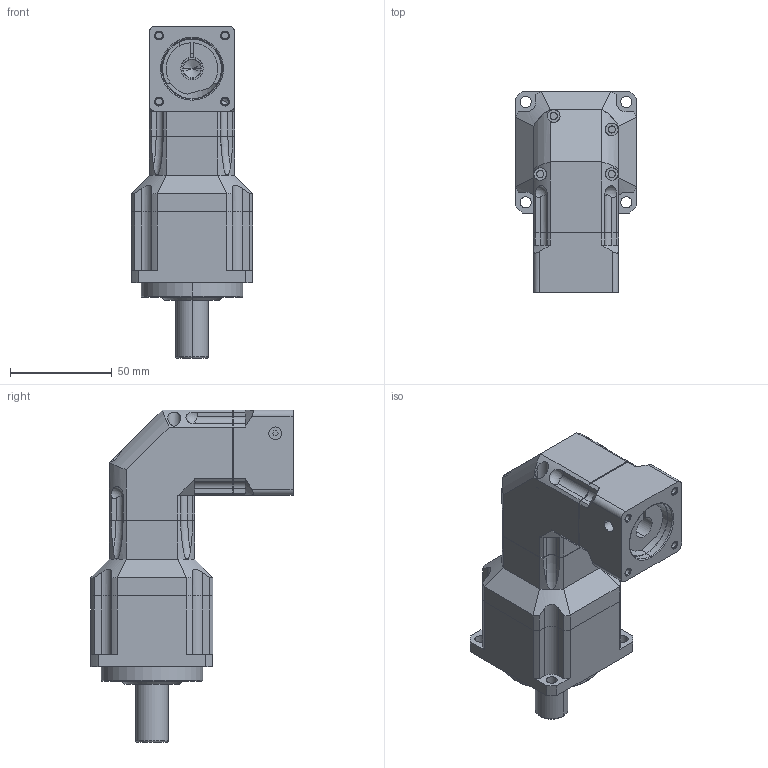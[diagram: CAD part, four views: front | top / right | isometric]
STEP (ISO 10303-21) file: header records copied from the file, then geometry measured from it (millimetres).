
FILE_DESCRIPTION((''),'2;1');
FILE_NAME('ABR0602-P4010102_ASM','2006-03-16T',('D00036'),(''),'PRO/ENGINEER BY PARAMETRIC TECHNOLOGY CORPORATION, 2001280','PRO/ENGINEER BY PARAMETRIC TECHNOLOGY CORPORATION, 2001280','');
FILE_SCHEMA(('CONFIG_CONTROL_DESIGN'));
Length unit declared in the file: millimetre
Products named in the file (5): AB0602_AF1; AB0602-1_AF1; PD010001; P4010102; ABR0602-P4010102_ASM
Assembly tree (4 placements, depth 2):
  ABR0602-P4010102_ASM
    AB0602_AF1
    AB0602-1_AF1
    PD010001
    P4010102
Bounding box: 60 x 99.5 x 163.5 mm (x, y, z)
Volume: 304954.3 mm3; surface area: 66379.4 mm2
Topology: 5 solids, 15 shells, 463 faces, 1127 edges, 697 vertices
Faces by surface type: cylinder 180, plane 169, cone 86, torus 20, bspline 4, sphere 4
Entity records: 14345 total; most frequent: CARTESIAN_POINT 3217, DIRECTION 2426, ORIENTED_EDGE 2182, EDGE_CURVE 1113, AXIS2_PLACEMENT_3D 949, VERTEX_POINT 697, VECTOR 528, LINE 528
